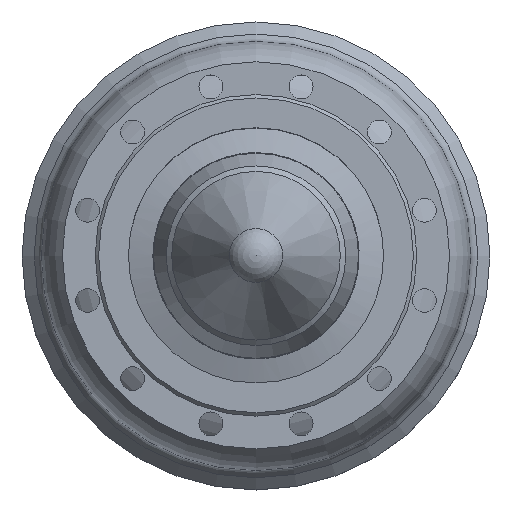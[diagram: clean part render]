
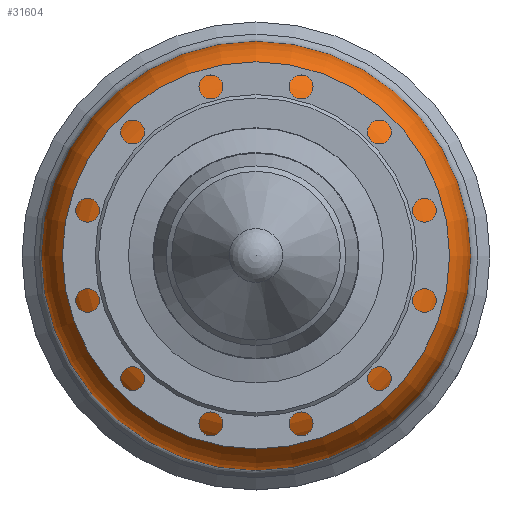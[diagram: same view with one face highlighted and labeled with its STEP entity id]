
A CAD part, top view. The second image highlights one B-rep face of the part: STEP entity #31604.
In plain terms, the highlighted toroidal (fillet/blend) face has major radius 159.5 mm and minor radius 93 mm.
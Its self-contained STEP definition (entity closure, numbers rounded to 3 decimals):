
#9251=ORIENTED_EDGE('',*,*,#12788,.T.);
#9252=ORIENTED_EDGE('',*,*,#12790,.F.);
#12788=EDGE_CURVE('',#15025,#15025,#16048,.T.);
#12790=EDGE_CURVE('',#15027,#15027,#16050,.T.);
#15025=VERTEX_POINT('',#61352);
#15027=VERTEX_POINT('',#61358);
#16048=CIRCLE('',#33611,187.82);
#16050=CIRCLE('',#33615,252.09);
#17811=EDGE_LOOP('',(#9251));
#17812=EDGE_LOOP('',(#9252));
#19901=FACE_BOUND('',#17811,.T.);
#19902=FACE_BOUND('',#17812,.T.);
#20546=TOROIDAL_SURFACE('',#33614,159.5,93.);
#31604=ADVANCED_FACE('',(#19901,#19902),#20546,.T.);
#33611=AXIS2_PLACEMENT_3D('',#61351,#38393,#38394);
#33614=AXIS2_PLACEMENT_3D('',#61356,#38399,#38400);
#33615=AXIS2_PLACEMENT_3D('',#61357,#38401,#38402);
#38393=DIRECTION('',(0.,0.,-1.));
#38394=DIRECTION('',(1.,0.,0.));
#38399=DIRECTION('',(0.,0.,-1.));
#38400=DIRECTION('',(1.,0.,0.));
#38401=DIRECTION('',(0.,0.,-1.));
#38402=DIRECTION('',(1.,0.,0.));
#61351=CARTESIAN_POINT('',(0.,0.,
431.583));
#61352=CARTESIAN_POINT('',(187.82,0.,431.583));
#61356=CARTESIAN_POINT('',(0.,0.,
343.));
#61357=CARTESIAN_POINT('',(0.,0.,
334.281));
#61358=CARTESIAN_POINT('',(252.09,0.,334.281));
